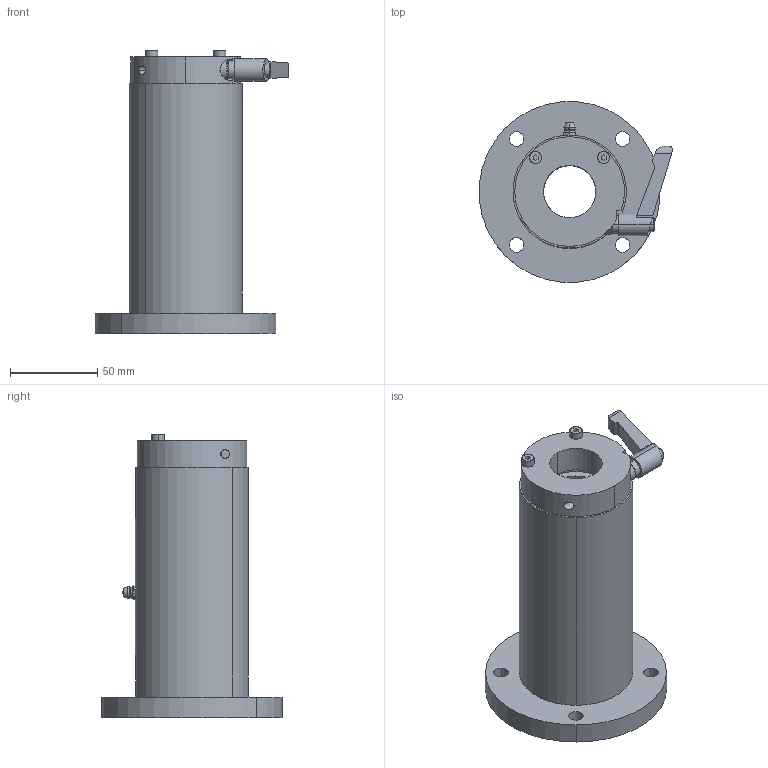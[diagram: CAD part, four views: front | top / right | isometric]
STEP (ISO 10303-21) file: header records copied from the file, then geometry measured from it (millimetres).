
FILE_DESCRIPTION (( 'STEP AP214' ), '1' );
FILE_NAME ('LFW30-OH-C.STEP', '2023-06-27T02:05:57', ( '' ), ( '' ), 'SwSTEP 2.0', 'SolidWorks 2019', '' );
FILE_SCHEMA (( 'AUTOMOTIVE_DESIGN' ));
Length unit declared in the file: millimetre
Products named in the file (3): LFW30-OH-C; LFW30-OH; “ÁSCK3015CO-S4.5
Assembly tree (2 placements, depth 2):
  LFW30-OH-C
    LFW30-OH
    “ÁSCK3015CO-S4.5
Bounding box: 110.9 x 103.6 x 163 mm (x, y, z)
Volume: 469206.3 mm3; surface area: 84168.3 mm2
Topology: 3 solids, 9 shells, 227 faces, 570 edges, 359 vertices
Faces by surface type: cylinder 81, plane 67, bspline 47, cone 20, torus 8, sphere 4
Entity records: 10048 total; most frequent: CARTESIAN_POINT 2247, DIRECTION 1182, ORIENTED_EDGE 1136, EDGE_CURVE 568, AXIS2_PLACEMENT_3D 495, VERTEX_POINT 358, CIRCLE 310, EDGE_LOOP 274
